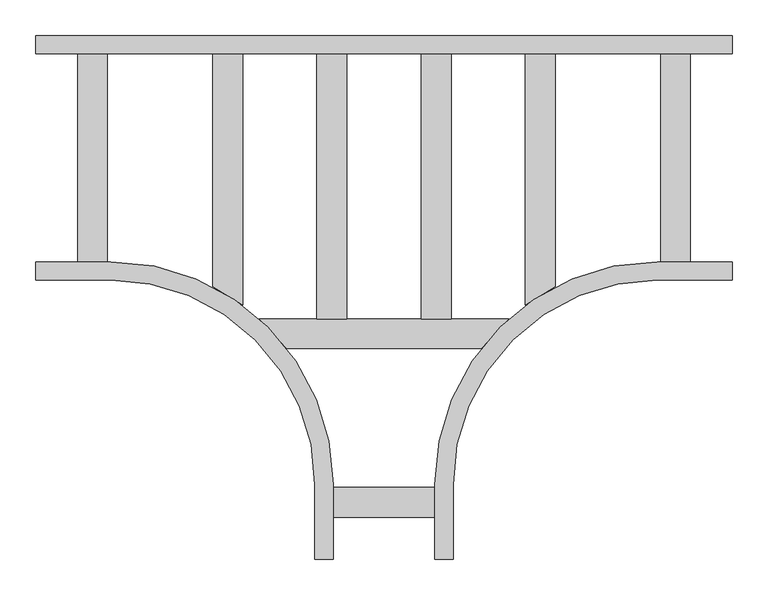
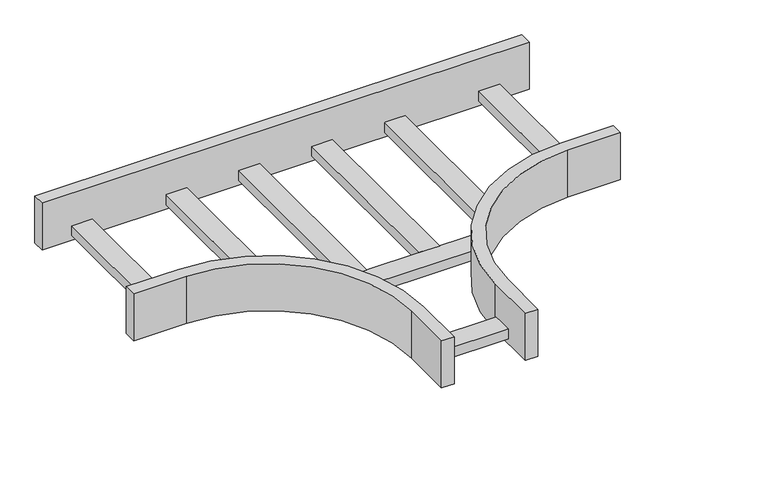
"""IFC4 building model written with IfcOpenShell, lengths in millimetres: cable carrier fitting geometry, Legrand_CableLadder_Swifts_Topaz_Tee-300R-13 : Hot Dip Galvanised (after manufacture)."""

from ifc_helpers import new_model, si_unit, point, frame, frame_2d, origin, place, context, project, spatial, polyline, circle_curve, trimmed, segment, composite_curve, outline, extrude, source, transform, mapped, element, save


def cable_carrier_fitting_96e0057e(model_context):
    return source(origin(), model_context, "Body", "SweptSolid", [
        extrude(outline(composite_curve([segment(polyline([(-240.875, 146.5), (-198.875, 146.5), (-198.875, -207.3598019)]), True, "CONTINUOUS"), segment(trimmed(circle_curve(frame_2d((-384.25, -459.25)), 312.75), [point((-198.875, -207.3598019))], [point((-240.875, -181.3000551))], True, "CARTESIAN"), True, "CONTINUOUS"), segment(polyline([(-240.875, -181.3000551), (-240.875, 146.5)]), True, "CONTINUOUS")], self_intersect=False)), frame((0.0, 0.0, -40.0), z_axis=(0.0, 0.0, 1.0), x_axis=(1.0, 0.0, 0.0)), (0.0, 0.0, 1.0), 21.0),
        extrude(outline(composite_curve([segment(polyline([(198.875, 146.5), (240.875, 146.5), (240.875, -181.3000551)]), True, "CONTINUOUS"), segment(trimmed(circle_curve(frame_2d((384.25, -459.25)), 312.75), [point((240.875, -181.3000551))], [point((198.875, -207.3598019))], True, "CARTESIAN"), True, "CONTINUOUS"), segment(polyline([(198.875, -207.3598019), (198.875, 146.5)]), True, "CONTINUOUS")], self_intersect=False)), frame((0.0, 0.0, -40.0), z_axis=(0.0, 0.0, 1.0), x_axis=(1.0, 0.0, 0.0)), (0.0, 0.0, 1.0), 21.0),
        extrude(outline(polyline([(-94.2916667, -226.5), (-94.2916667, 146.5), (-52.2916667, 146.5), (-52.2916667, -226.5), (-94.2916667, -226.5)])), frame((0.0, 0.0, -40.0), z_axis=(0.0, 0.0, 1.0), x_axis=(1.0, 0.0, 0.0)), (0.0, 0.0, 1.0), 21.0),
        extrude(outline(polyline([(52.2916667, -226.5), (52.2916667, 146.5), (94.2916667, 146.5), (94.2916667, -226.5), (52.2916667, -226.5)])), frame((0.0, 0.0, -40.0), z_axis=(0.0, 0.0, 1.0), x_axis=(1.0, 0.0, 0.0)), (0.0, 0.0, 1.0), 21.0),
        extrude(outline(polyline([(71.5, -463.75), (71.5, -505.75), (-71.5, -505.75), (-71.5, -463.75), (71.5, -463.75)])), frame((0.0, 0.0, -40.0), z_axis=(0.0, 0.0, 1.0), x_axis=(1.0, 0.0, 0.0)), (0.0, 0.0, 1.0), 21.0),
        extrude(outline(polyline([(-430.75, -146.5), (-430.75, 146.5), (-388.75, 146.5), (-388.75, -146.5), (-430.75, -146.5)])), frame((0.0, 0.0, -40.0), z_axis=(0.0, 0.0, 1.0), x_axis=(1.0, 0.0, 0.0)), (0.0, 0.0, 1.0), 21.0),
        extrude(outline(polyline([(430.75, -146.5), (388.75, -146.5), (388.75, 146.5), (430.75, 146.5), (430.75, -146.5)])), frame((0.0, 0.0, -40.0), z_axis=(0.0, 0.0, 1.0), x_axis=(1.0, 0.0, 0.0)), (0.0, 0.0, 1.0), 21.0),
        extrude(outline(composite_curve([segment(polyline([(136.4052906, -268.5), (-136.4052906, -268.5)]), True, "CONTINUOUS"), segment(trimmed(circle_curve(frame_2d((-384.25, -459.25)), 312.75), [point((-136.4052906, -268.5))], [point((-175.3481092, -226.5))], True, "CARTESIAN"), True, "CONTINUOUS"), segment(polyline([(-175.3481092, -226.5), (175.3481092, -226.5)]), True, "CONTINUOUS"), segment(trimmed(circle_curve(frame_2d((384.25, -459.25)), 312.75), [point((175.3481092, -226.5))], [point((136.4052906, -268.5))], True, "CARTESIAN"), True, "CONTINUOUS")], self_intersect=False)), frame((0.0, 0.0, -40.0), z_axis=(0.0, 0.0, 1.0), x_axis=(1.0, 0.0, 0.0)), (0.0, 0.0, 1.0), 21.0),
        extrude(outline(composite_curve([segment(polyline([(489.75, -146.5), (489.75, -172.0), (384.25, -172.0)]), True, "CONTINUOUS"), segment(trimmed(circle_curve(frame_2d((384.25, -459.25)), 287.25), [point((384.25, -172.0))], [point((97.0, -459.25))], True, "CARTESIAN"), True, "CONTINUOUS"), segment(polyline([(97.0, -459.25), (97.0, -564.75), (71.5, -564.75), (71.5, -459.25)]), True, "CONTINUOUS"), segment(trimmed(circle_curve(frame_2d((384.25, -459.25)), 312.75), [point((71.5, -459.25))], [point((384.25, -146.5))], False, "CARTESIAN"), True, "CONTINUOUS"), segment(polyline([(384.25, -146.5), (489.75, -146.5)]), True, "CONTINUOUS")], self_intersect=False)), frame((0.0, 0.0, -50.0), z_axis=(0.0, 0.0, 1.0), x_axis=(1.0, 0.0, 0.0)), (0.0, 0.0, 1.0), 100.0),
        extrude(outline(composite_curve([segment(polyline([(-489.75, -172.0), (-489.75, -146.5), (-384.25, -146.5)]), True, "CONTINUOUS"), segment(trimmed(circle_curve(frame_2d((-384.25, -459.25)), 312.75), [point((-384.25, -146.5))], [point((-71.5, -459.25))], False, "CARTESIAN"), True, "CONTINUOUS"), segment(polyline([(-71.5, -459.25), (-71.5, -564.75), (-97.0, -564.75), (-97.0, -459.25)]), True, "CONTINUOUS"), segment(trimmed(circle_curve(frame_2d((-384.25, -459.25)), 287.25), [point((-97.0, -459.25))], [point((-384.25, -172.0))], True, "CARTESIAN"), True, "CONTINUOUS"), segment(polyline([(-384.25, -172.0), (-489.75, -172.0)]), True, "CONTINUOUS")], self_intersect=False)), frame((0.0, 0.0, -50.0), z_axis=(0.0, 0.0, 1.0), x_axis=(1.0, 0.0, 0.0)), (0.0, 0.0, 1.0), 100.0),
        extrude(outline(polyline([(-489.75, 146.5), (-489.75, 172.0), (489.75, 172.0), (489.75, 146.5), (-489.75, 146.5)])), frame((0.0, 0.0, -50.0), z_axis=(0.0, 0.0, 1.0), x_axis=(1.0, 0.0, 0.0)), (0.0, 0.0, 1.0), 100.0),
    ])


if __name__ == "__main__":
    model = new_model("IFC4")
    model_context = context("Model", 3, world=origin())
    ifc_project = project(units=[si_unit("LENGTHUNIT", "METRE", prefix="MILLI")], contexts=[model_context])
    site = spatial("IfcSite", under=ifc_project)
    building = spatial("IfcBuilding", under=site)
    placement = place(None, origin())
    cable_carrier_fitting_shape = cable_carrier_fitting_96e0057e(model_context)
    element("IfcCableCarrierFitting", 1, ObjectType="Legrand_CableLadder_Swifts_Topaz_Tee-300R-13 : Hot Dip Galvanised (after manufacture)", at=placement, inside=building, context=model_context, shape_type="MappedRepresentation", body=[
        mapped(cable_carrier_fitting_shape, transform((0.0, 0.0, 0.0), x_axis=(1.0, 0.0, 0.0), y_axis=(0.0, 1.0, 0.0), z_axis=(0.0, 0.0, 1.0))),
    ])
    save(model, "model.ifc")
